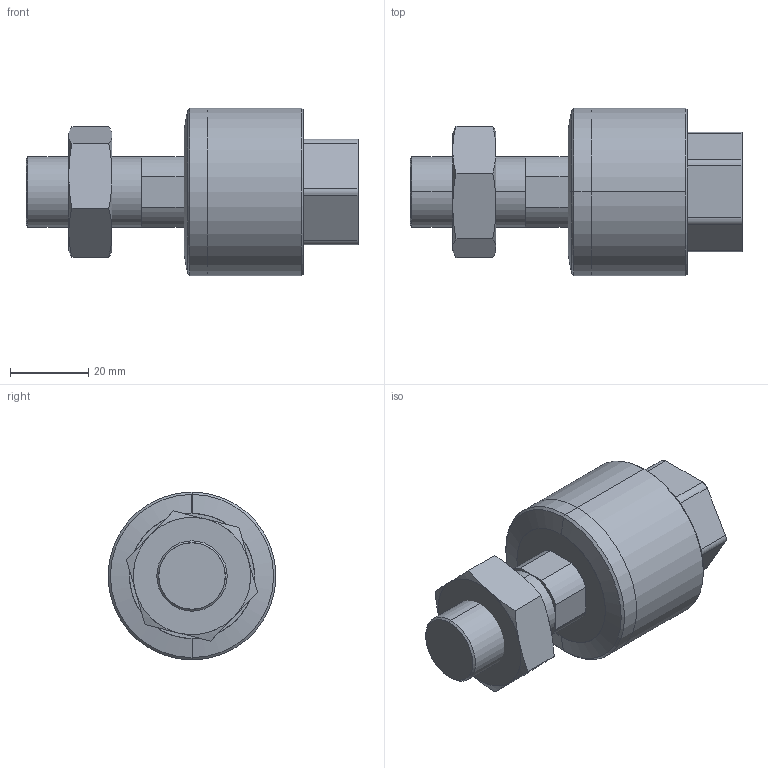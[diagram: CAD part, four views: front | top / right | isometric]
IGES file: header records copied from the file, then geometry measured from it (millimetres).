
Start section: SolidWorks IGES file using analytic representation for surfaces
Global section: file name: D:\MI\新增資料夾\FC\FCM18A-1.5.IGS; native system: SolidWorks 2013; preprocessor: SolidWorks 2013; author: Sam Lin; date: 160323.114205; units: millimetre
Bounding box: 85 x 43 x 43 mm (x, y, z)
Surface area: 14207.8 mm2 (no closed solid volume)
Topology: 0 solids, 0 shells, 68 faces, 870 edges, 868 vertices
Faces by surface type: bspline 38, revolution 30
